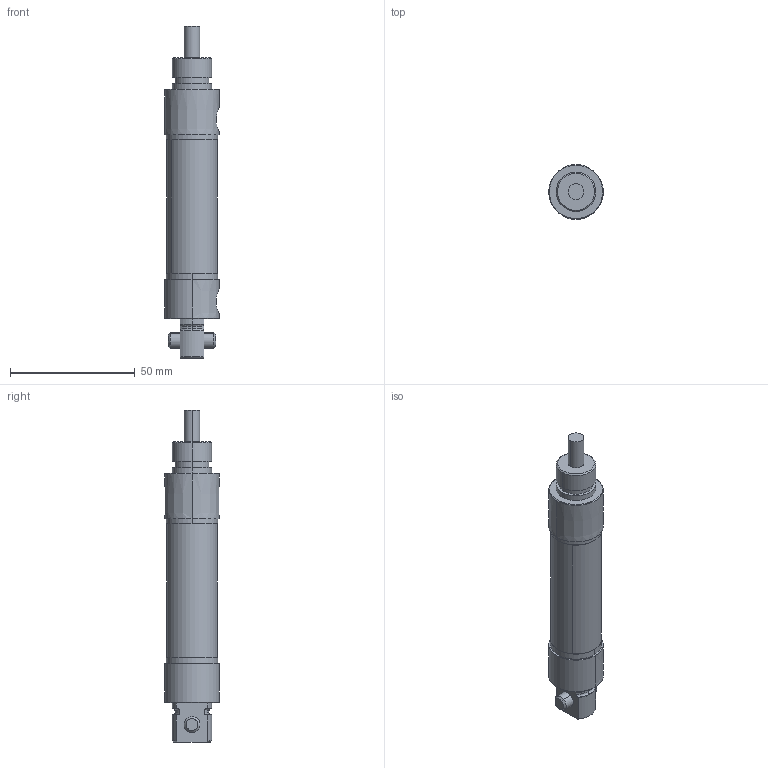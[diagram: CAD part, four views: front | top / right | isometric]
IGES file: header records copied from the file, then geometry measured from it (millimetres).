
Global section: file name: C:\Documents and Settings\Administrator\Desktop\Transfer Temp\cylinder0750x1.igs; native system: AutoDesk Inventor R2.0 ; preprocessor: AutoDesk Inventor Iges Exporter R2.0; author: No Author specified; organization: No Organization specified; date: 20020125.204246; units: inch
Bounding box: 21.91 x 21.91 x 133.34 mm (x, y, z)
Surface area: 16308.3 mm2 (no closed solid volume)
Topology: 0 solids, 0 shells, 91 faces, 428 edges, 426 vertices
Faces by surface type: revolution 50, bspline 41
